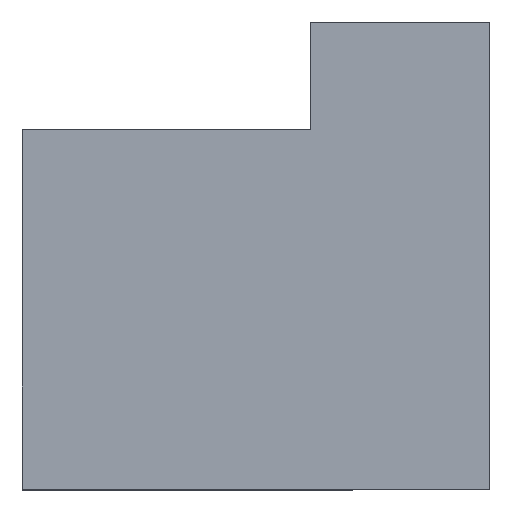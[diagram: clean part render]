
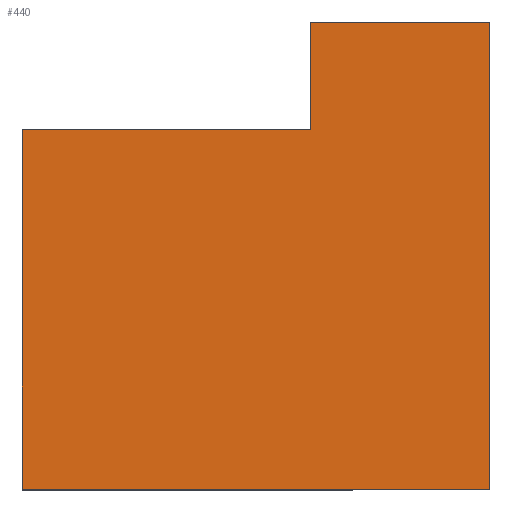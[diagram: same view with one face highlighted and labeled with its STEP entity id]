
A CAD part, top view. The second image highlights one B-rep face of the part: STEP entity #440.
In plain terms, the highlighted planar face has unit normal (0, 0, 1).
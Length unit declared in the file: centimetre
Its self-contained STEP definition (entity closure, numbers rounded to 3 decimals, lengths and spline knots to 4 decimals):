
#1 = VECTOR ( 'NONE', #655, 100. ) ;
#8 = LINE ( 'NONE', #483, #629 ) ;
#24 = LINE ( 'NONE', #439, #777 ) ;
#28 = FACE_OUTER_BOUND ( 'NONE', #283, .T. ) ;
#29 = DIRECTION ( 'NONE',  ( -1., 0., 0. ) ) ;
#37 = CARTESIAN_POINT ( 'NONE',  ( 0., 0., 1000. ) ) ;
#48 = CARTESIAN_POINT ( 'NONE',  ( 616.5372, 1000., 1000. ) ) ;
#102 = LINE ( 'NONE', #335, #558 ) ;
#110 = CARTESIAN_POINT ( 'NONE',  ( 0., 770.3997, 1000. ) ) ;
#131 = CARTESIAN_POINT ( 'NONE',  ( 0., 1000., 1000. ) ) ;
#140 = EDGE_CURVE ( 'NONE', #722, #470, #8, .T. ) ;
#200 = CARTESIAN_POINT ( 'NONE',  ( 1000., 1000., 1000. ) ) ;
#207 = DIRECTION ( 'NONE',  ( 0., 1., 0. ) ) ;
#209 = DIRECTION ( 'NONE',  ( 1., 0., 0. ) ) ;
#237 = ORIENTED_EDGE ( 'NONE', *, *, #357, .T. ) ;
#260 = DIRECTION ( 'NONE',  ( 0., 1., 0. ) ) ;
#266 = PLANE ( 'NONE',  #268 ) ;
#268 = AXIS2_PLACEMENT_3D ( 'NONE', #691, #699, #500 ) ;
#283 = EDGE_LOOP ( 'NONE', ( #771, #387, #557, #237, #465, #703 ) ) ;
#309 = EDGE_CURVE ( 'NONE', #482, #717, #426, .T. ) ;
#318 = CARTESIAN_POINT ( 'NONE',  ( 616.5372, 1000., 1000. ) ) ;
#335 = CARTESIAN_POINT ( 'NONE',  ( 616.5372, 770.3997, 1000. ) ) ;
#347 = VERTEX_POINT ( 'NONE', #666 ) ;
#357 = EDGE_CURVE ( 'NONE', #665, #722, #24, .T. ) ;
#387 = ORIENTED_EDGE ( 'NONE', *, *, #309, .T. ) ;
#413 = EDGE_CURVE ( 'NONE', #347, #470, #759, .T. ) ;
#426 = LINE ( 'NONE', #131, #1 ) ;
#439 = CARTESIAN_POINT ( 'NONE',  ( 1000., 1000., 1000. ) ) ;
#440 = ADVANCED_FACE ( 'NONE', ( #28 ), #266, .T. ) ;
#455 = VECTOR ( 'NONE', #260, 100. ) ;
#465 = ORIENTED_EDGE ( 'NONE', *, *, #140, .T. ) ;
#470 = VERTEX_POINT ( 'NONE', #48 ) ;
#482 = VERTEX_POINT ( 'NONE', #110 ) ;
#483 = CARTESIAN_POINT ( 'NONE',  ( 0., 1000., 1000. ) ) ;
#500 = DIRECTION ( 'NONE',  ( 1., 0., 0. ) ) ;
#557 = ORIENTED_EDGE ( 'NONE', *, *, #694, .T. ) ;
#558 = VECTOR ( 'NONE', #571, 100. ) ;
#571 = DIRECTION ( 'NONE',  ( -1., 0., 0. ) ) ;
#586 = VECTOR ( 'NONE', #209, 100. ) ;
#613 = LINE ( 'NONE', #37, #586 ) ;
#629 = VECTOR ( 'NONE', #29, 100. ) ;
#655 = DIRECTION ( 'NONE',  ( 0., -1., 0. ) ) ;
#665 = VERTEX_POINT ( 'NONE', #695 ) ;
#666 = CARTESIAN_POINT ( 'NONE',  ( 616.5372, 770.3997, 1000. ) ) ;
#691 = CARTESIAN_POINT ( 'NONE',  ( 0., 0., 1000. ) ) ;
#694 = EDGE_CURVE ( 'NONE', #717, #665, #613, .T. ) ;
#695 = CARTESIAN_POINT ( 'NONE',  ( 1000., 0., 1000. ) ) ;
#699 = DIRECTION ( 'NONE',  ( 0., 0., 1. ) ) ;
#703 = ORIENTED_EDGE ( 'NONE', *, *, #413, .F. ) ;
#717 = VERTEX_POINT ( 'NONE', #747 ) ;
#722 = VERTEX_POINT ( 'NONE', #200 ) ;
#747 = CARTESIAN_POINT ( 'NONE',  ( 0., 0., 1000. ) ) ;
#755 = EDGE_CURVE ( 'NONE', #347, #482, #102, .T. ) ;
#759 = LINE ( 'NONE', #318, #455 ) ;
#771 = ORIENTED_EDGE ( 'NONE', *, *, #755, .T. ) ;
#777 = VECTOR ( 'NONE', #207, 100. ) ;
